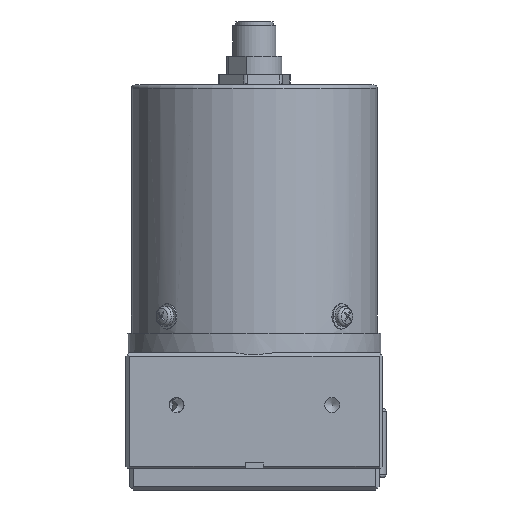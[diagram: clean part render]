
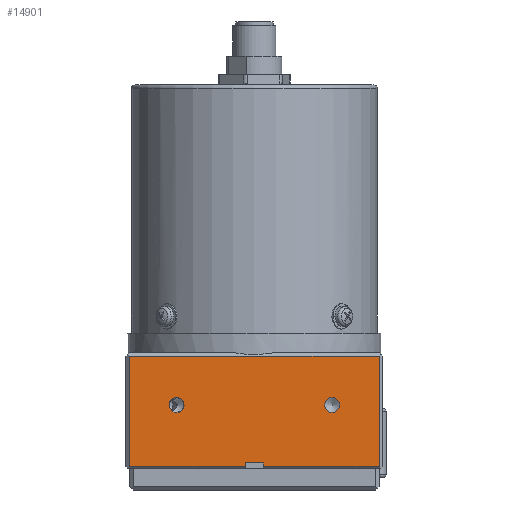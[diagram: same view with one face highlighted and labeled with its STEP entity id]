
A CAD part, front view. The second image highlights one B-rep face of the part: STEP entity #14901.
In plain terms, the highlighted planar face has unit normal (0, -1, 0).
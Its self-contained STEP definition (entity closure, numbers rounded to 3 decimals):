
#14165=CARTESIAN_POINT('',(1.,0.,-31.5));
#14166=VERTEX_POINT('',#14165);
#14173=CARTESIAN_POINT('',(1.,0.,-1.));
#14174=VERTEX_POINT('',#14173);
#14175=CARTESIAN_POINT('',(1.,0.,-31.5));
#14176=DIRECTION('',(0.0,0.0,1.0));
#14177=VECTOR('',#14176,30.5);
#14178=LINE('',#14175,#14177);
#14179=EDGE_CURVE('',#14166,#14174,#14178,.T.);
#14389=CARTESIAN_POINT('',(33.,0.,-31.5));
#14390=VERTEX_POINT('',#14389);
#14397=CARTESIAN_POINT('',(33.,0.,-31.5));
#14398=DIRECTION('',(-1.0,0.0,0.0));
#14399=VECTOR('',#14398,32.);
#14400=LINE('',#14397,#14399);
#14401=EDGE_CURVE('',#14390,#14166,#14400,.T.);
#14426=CARTESIAN_POINT('',(70.,0.,-1.));
#14427=VERTEX_POINT('',#14426);
#14434=CARTESIAN_POINT('',(70.,0.,-31.5));
#14435=VERTEX_POINT('',#14434);
#14436=CARTESIAN_POINT('',(70.,0.,-1.));
#14437=DIRECTION('',(0.0,0.0,-1.0));
#14438=VECTOR('',#14437,30.5);
#14439=LINE('',#14436,#14438);
#14440=EDGE_CURVE('',#14427,#14435,#14439,.T.);
#14693=CARTESIAN_POINT('',(59.067,0.,-14.5));
#14694=VERTEX_POINT('',#14693);
#14695=CARTESIAN_POINT('',(57.,0.,-14.5));
#14696=DIRECTION('',(0.0,1.0,0.0));
#14697=DIRECTION('',(1.0,0.0,0.0));
#14698=AXIS2_PLACEMENT_3D('',#14695,#14696,#14697);
#14699=CIRCLE('',#14698,2.067);
#14700=EDGE_CURVE('',#14694,#14694,#14699,.T.);
#14813=CARTESIAN_POINT('',(16.067,0.,-14.5));
#14814=VERTEX_POINT('',#14813);
#14815=CARTESIAN_POINT('',(14.0,0.,-14.5));
#14816=DIRECTION('',(0.0,1.0,0.0));
#14817=DIRECTION('',(1.0,0.0,0.0));
#14818=AXIS2_PLACEMENT_3D('',#14815,#14816,#14817);
#14819=CIRCLE('',#14818,2.067);
#14820=EDGE_CURVE('',#14814,#14814,#14819,.T.);
#14830=CARTESIAN_POINT('',(38.,0.,-31.5));
#14831=VERTEX_POINT('',#14830);
#14847=CARTESIAN_POINT('',(70.,0.,-31.5));
#14848=DIRECTION('',(-1.0,0.0,0.0));
#14849=VECTOR('',#14848,32.);
#14850=LINE('',#14847,#14849);
#14851=EDGE_CURVE('',#14435,#14831,#14850,.T.);
#14856=CARTESIAN_POINT('',(0.,0.,0.));
#14857=DIRECTION('',(0.0,-1.0,0.0));
#14858=DIRECTION('',(0.0,0.0,-1.0));
#14859=AXIS2_PLACEMENT_3D('',#14856,#14857,#14858);
#14860=PLANE('',#14859);
#14861=CARTESIAN_POINT('',(33.,0.,-30.5));
#14862=VERTEX_POINT('',#14861);
#14863=CARTESIAN_POINT('',(33.,0.,-31.5));
#14864=DIRECTION('',(0.0,0.0,1.0));
#14865=VECTOR('',#14864,1.);
#14866=LINE('',#14863,#14865);
#14867=EDGE_CURVE('',#14390,#14862,#14866,.T.);
#14868=ORIENTED_EDGE('',*,*,#14867,.T.);
#14869=CARTESIAN_POINT('',(38.,0.,-30.5));
#14870=VERTEX_POINT('',#14869);
#14871=CARTESIAN_POINT('',(33.,0.,-30.5));
#14872=DIRECTION('',(1.0,0.0,0.0));
#14873=VECTOR('',#14872,5.);
#14874=LINE('',#14871,#14873);
#14875=EDGE_CURVE('',#14862,#14870,#14874,.T.);
#14876=ORIENTED_EDGE('',*,*,#14875,.T.);
#14877=CARTESIAN_POINT('',(38.,0.,-30.5));
#14878=DIRECTION('',(0.0,0.0,-1.0));
#14879=VECTOR('',#14878,1.);
#14880=LINE('',#14877,#14879);
#14881=EDGE_CURVE('',#14870,#14831,#14880,.T.);
#14882=ORIENTED_EDGE('',*,*,#14881,.T.);
#14883=ORIENTED_EDGE('',*,*,#14851,.F.);
#14884=ORIENTED_EDGE('',*,*,#14440,.F.);
#14885=CARTESIAN_POINT('',(1.,0.,-1.));
#14886=DIRECTION('',(1.0,0.0,0.0));
#14887=VECTOR('',#14886,69.);
#14888=LINE('',#14885,#14887);
#14889=EDGE_CURVE('',#14174,#14427,#14888,.T.);
#14890=ORIENTED_EDGE('',*,*,#14889,.F.);
#14891=ORIENTED_EDGE('',*,*,#14179,.F.);
#14892=ORIENTED_EDGE('',*,*,#14401,.F.);
#14893=EDGE_LOOP('',(#14868,#14876,#14882,#14883,#14884,#14890,#14891,#14892));
#14894=FACE_OUTER_BOUND('',#14893,.T.);
#14895=ORIENTED_EDGE('',*,*,#14700,.T.);
#14896=EDGE_LOOP('',(#14895));
#14897=FACE_BOUND('',#14896,.T.);
#14898=ORIENTED_EDGE('',*,*,#14820,.T.);
#14899=EDGE_LOOP('',(#14898));
#14900=FACE_BOUND('',#14899,.T.);
#14901=ADVANCED_FACE('',(#14894,#14897,#14900),#14860,.T.);
